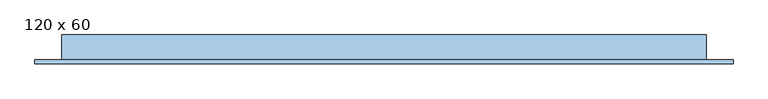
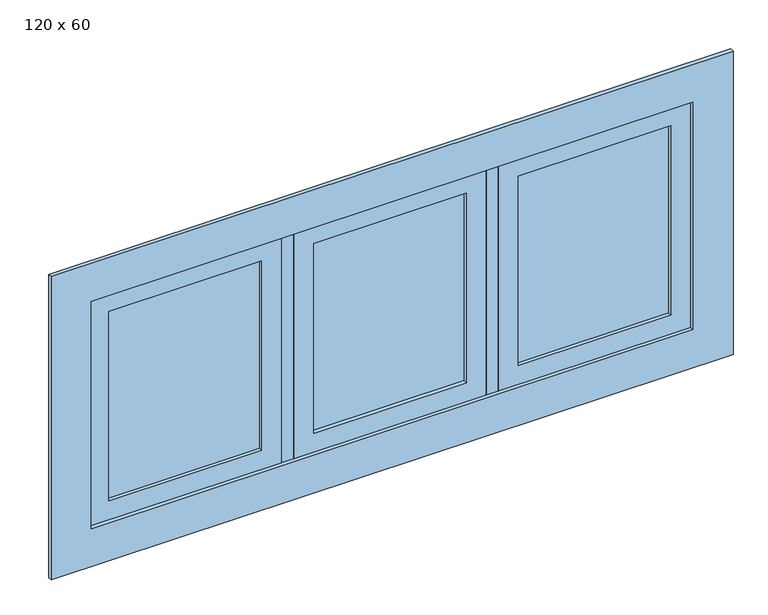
"""IFC4 building model written with IfcOpenShell, lengths in millimetres: window geometry, JANELA COM ESQUADRIA MAXIM-AR - 3 FOLHAS : 120 x 60."""

from ifc_helpers import new_model, si_unit, frame, origin, place, context, project, spatial, polyline, outline, extrude, source, transform, mapped, element, save


def window_120_x_60_1fe928af(model_context):
    return source(origin(), model_context, "Body", "SweptSolid", [
        extrude(outline(polyline([(-60.5964491, -60.3758395), (319.4035509, -60.3758395), (319.4035509, -66.3758395), (-60.5964491, -66.3758395), (-60.5964491, -60.3758395)])), frame((0.0, 0.0, 1650.0), z_axis=(0.0, 0.0, 1.0), x_axis=(1.0, 0.0, 0.0)), (0.0, 0.0, 1.0), 500.0),
        extrude(outline(polyline([(2200.0, -110.5964491), (1600.0, -110.5964491), (1600.0, 369.4035509), (2200.0, 369.4035509), (2200.0, -110.5964491)]), holes=[polyline([(2150.0, -60.5964491), (2150.0, 319.4035509), (1650.0, 319.4035509), (1650.0, -60.5964491), (2150.0, -60.5964491)])]), frame((0.0, -75.8758395, 0.0), z_axis=(0.0, 1.0, 0.0), x_axis=(0.0, 0.0, 1.0)), (0.0, 0.0, 1.0), 25.0),
        extrude(outline(polyline([(449.4035509, -60.3758395), (829.4035509, -60.3758395), (829.4035509, -66.3758395), (449.4035509, -66.3758395), (449.4035509, -60.3758395)])), frame((0.0, 0.0, 1650.0), z_axis=(0.0, 0.0, 1.0), x_axis=(1.0, 0.0, 0.0)), (0.0, 0.0, 1.0), 500.0),
        extrude(outline(polyline([(2200.0, 399.4035509), (1600.0, 399.4035509), (1600.0, 879.4035509), (2200.0, 879.4035509), (2200.0, 399.4035509)]), holes=[polyline([(2150.0, 449.4035509), (2150.0, 829.4035509), (1650.0, 829.4035509), (1650.0, 449.4035509), (2150.0, 449.4035509)])]), frame((0.0, -75.8758395, 0.0), z_axis=(0.0, 1.0, 0.0), x_axis=(0.0, 0.0, 1.0)), (0.0, 0.0, 1.0), 25.0),
        extrude(outline(polyline([(-570.5964491, -60.3758395), (-190.5964491, -60.3758395), (-190.5964491, -66.3758395), (-570.5964491, -66.3758395), (-570.5964491, -60.3758395)])), frame((0.0, 0.0, 1650.0), z_axis=(0.0, 0.0, 1.0), x_axis=(1.0, 0.0, 0.0)), (0.0, 0.0, 1.0), 500.0),
        extrude(outline(polyline([(2200.0, -620.5964491), (1600.0, -620.5964491), (1600.0, -140.5964491), (2200.0, -140.5964491), (2200.0, -620.5964491)]), holes=[polyline([(2150.0, -570.5964491), (2150.0, -190.5964491), (1650.0, -190.5964491), (1650.0, -570.5964491), (2150.0, -570.5964491)])]), frame((0.0, -75.8758395, 0.0), z_axis=(0.0, 1.0, 0.0), x_axis=(0.0, 0.0, 1.0)), (0.0, 0.0, 1.0), 25.0),
        extrude(outline(polyline([(1500.0, -720.5964491), (1500.0, 979.4035509), (2300.0, 979.4035509), (2300.0, -720.5964491), (1500.0, -720.5964491)]), holes=[polyline([(2200.0, -620.5964491), (2200.0, 879.4035509), (1600.0, 879.4035509), (1600.0, -620.5964491), (2200.0, -620.5964491)])]), frame((0.0, -85.8758395, 0.0), z_axis=(0.0, 1.0, 0.0), x_axis=(0.0, 0.0, 1.0)), (0.0, 0.0, 1.0), 10.0),
        extrude(outline(polyline([(369.4035509, -75.8758395), (369.4035509, -15.8758395), (399.4035509, -15.8758395), (399.4035509, -75.8758395), (369.4035509, -75.8758395)])), frame((0.0, 0.0, 1600.0), z_axis=(0.0, 0.0, 1.0), x_axis=(1.0, 0.0, 0.0)), (0.0, 0.0, 1.0), 600.0),
        extrude(outline(polyline([(-140.5964491, -75.8758395), (-140.5964491, -15.8758395), (-110.5964491, -15.8758395), (-110.5964491, -75.8758395), (-140.5964491, -75.8758395)])), frame((0.0, 0.0, 1600.0), z_axis=(0.0, 0.0, 1.0), x_axis=(1.0, 0.0, 0.0)), (0.0, 0.0, 1.0), 600.0),
        extrude(outline(polyline([(-655.5964491, -15.8758395), (-620.5964491, -15.8758395), (-620.5964491, -75.8758395), (-655.5964491, -75.8758395), (-655.5964491, -15.8758395)])), frame((0.0, 0.0, 1600.0), z_axis=(0.0, 0.0, 1.0), x_axis=(1.0, 0.0, 0.0)), (0.0, 0.0, 1.0), 600.0),
        extrude(outline(polyline([(879.4035509, -15.8758395), (914.4035509, -15.8758395), (914.4035509, -75.8758395), (879.4035509, -75.8758395), (879.4035509, -15.8758395)])), frame((0.0, 0.0, 1600.0), z_axis=(0.0, 0.0, 1.0), x_axis=(1.0, 0.0, 0.0)), (0.0, 0.0, 1.0), 600.0),
        extrude(outline(polyline([(-655.5964491, -15.8758395), (914.4035509, -15.8758395), (914.4035509, -75.8758395), (-655.5964491, -75.8758395), (-655.5964491, -15.8758395)])), frame((0.0, 0.0, 1565.0), z_axis=(0.0, 0.0, 1.0), x_axis=(1.0, 0.0, 0.0)), (0.0, 0.0, 1.0), 35.0),
        extrude(outline(polyline([(-655.5964491, -15.8758395), (914.4035509, -15.8758395), (914.4035509, -75.8758395), (-655.5964491, -75.8758395), (-655.5964491, -15.8758395)])), frame((0.0, 0.0, 2200.0), z_axis=(0.0, 0.0, 1.0), x_axis=(1.0, 0.0, 0.0)), (0.0, 0.0, 1.0), 35.0),
    ])


if __name__ == "__main__":
    model = new_model("IFC4")
    model_context = context("Model", 3, world=origin())
    ifc_project = project(units=[si_unit("LENGTHUNIT", "METRE", prefix="MILLI")], contexts=[model_context])
    site = spatial("IfcSite", under=ifc_project)
    building = spatial("IfcBuilding", under=site)
    placement = place(None, origin())
    window_120_x_60_shape = window_120_x_60_1fe928af(model_context)
    element("IfcWindow", 1, ObjectType="JANELA COM ESQUADRIA MAXIM-AR - 3 FOLHAS : 120 x 60", at=placement, inside=building, context=model_context, shape_type="MappedRepresentation", body=[
        mapped(window_120_x_60_shape, transform((0.0, 0.0, 0.0), x_axis=(1.0, 0.0, 0.0), y_axis=(0.0, 1.0, 0.0), z_axis=(0.0, 0.0, 1.0))),
    ])
    save(model, "model.ifc")
